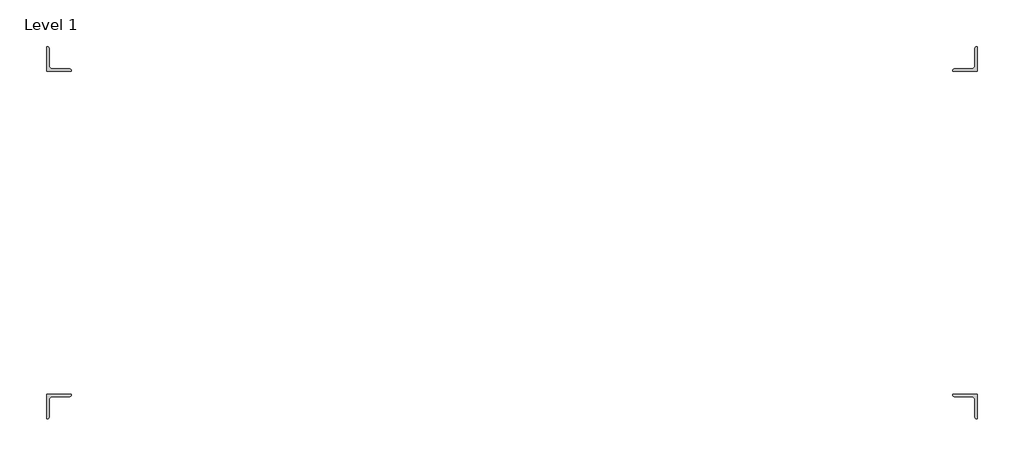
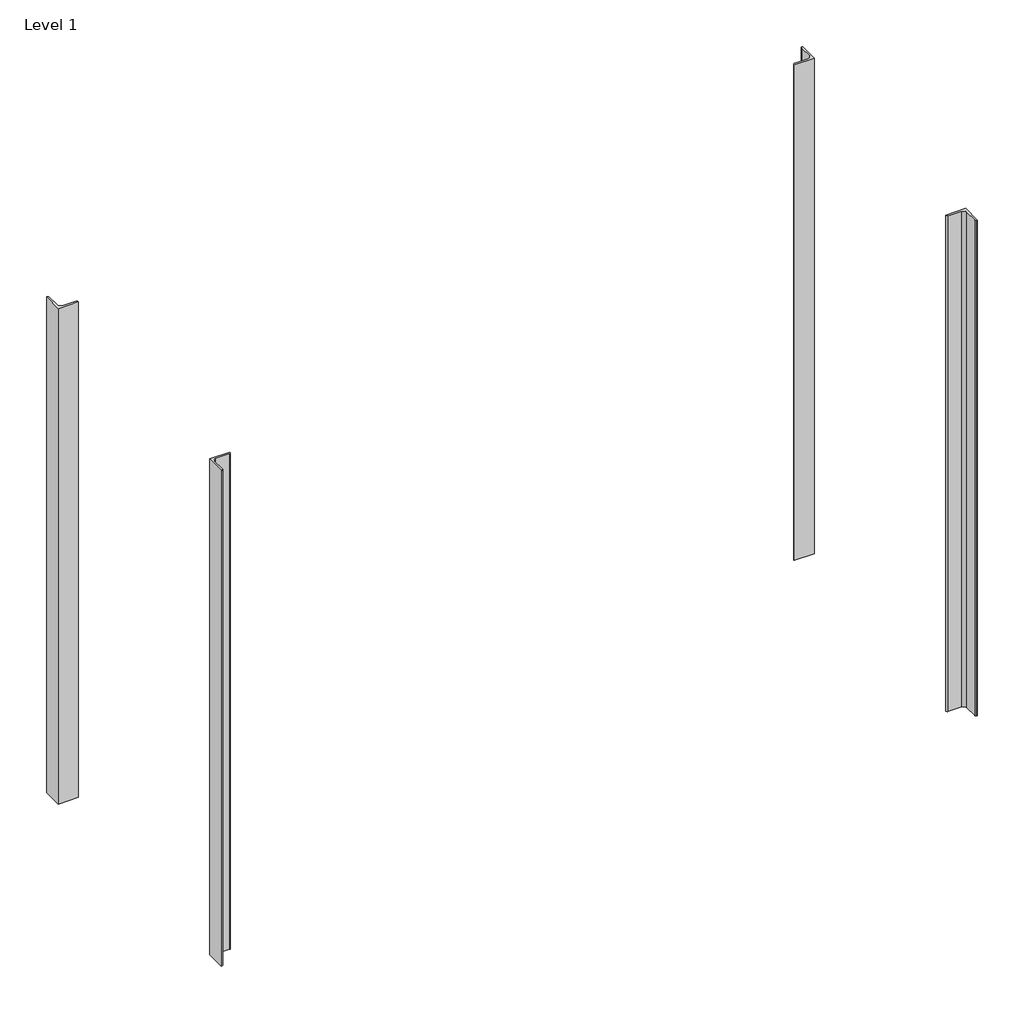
# One storey: 4 beams.
"""IFC4 building model written with IfcOpenShell, lengths in millimetres."""

from ifc_helpers import new_model, si_unit, origin, place, context, project, spatial, transform, mapped, element, save
from components import equal_l_l40x4_a2c7a736

model = new_model("IFC4")

# Units and contexts
model_context = context("Model", 3, world=origin())
ifc_project = project(units=[si_unit("LENGTHUNIT", "METRE", prefix="MILLI")], contexts=[model_context])

# Site, building, storey
site = spatial("IfcSite", under=ifc_project)
building = spatial("IfcBuilding", under=site)
storey = spatial("IfcBuildingStorey", under=building, Name="Level 1", Elevation=0.0)

# Beams
placement = place(None, origin())
equal_l_l40x4_shape = equal_l_l40x4_a2c7a736(model_context)
element("IfcBeam", 1, ObjectType="Equal L : L40x4", at=placement, inside=storey, context=model_context, shape_type="MappedRepresentation", body=[
    mapped(equal_l_l40x4_shape, transform((11.2, -21.2, 480.4), x_axis=(0.0, 0.0, 1.0), y_axis=(-1.0, 0.0, 0.0), z_axis=(0.0, -1.0, 0.0))),
])
element("IfcBeam", 2, ObjectType="Equal L : L40x4", at=placement, inside=storey, context=model_context, shape_type="MappedRepresentation", body=[
    mapped(equal_l_l40x4_shape, transform((11.2, 521.2, 480.4), x_axis=(0.0, 0.0, 1.0), y_axis=(0.0, -1.0, 0.0), z_axis=(1.0, 0.0, 0.0))),
])
element("IfcBeam", 3, ObjectType="Equal L : L40x4", at=placement, inside=storey, context=model_context, shape_type="MappedRepresentation", body=[
    mapped(equal_l_l40x4_shape, transform((1488.8, -21.2, 480.4), x_axis=(0.0, 0.0, 1.0), y_axis=(0.0, 1.0, 0.0), z_axis=(-1.0, 0.0, 0.0))),
])
element("IfcBeam", 4, ObjectType="Equal L : L40x4", at=placement, inside=storey, context=model_context, shape_type="MappedRepresentation", body=[
    mapped(equal_l_l40x4_shape, transform((1488.8, 521.2, 480.4), x_axis=(0.0, 0.0, 1.0000000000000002), y_axis=(1.0000000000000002, 0.0, 0.0), z_axis=(0.0, 1.0000000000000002, 0.0))),
])

save(model, "model.ifc")
